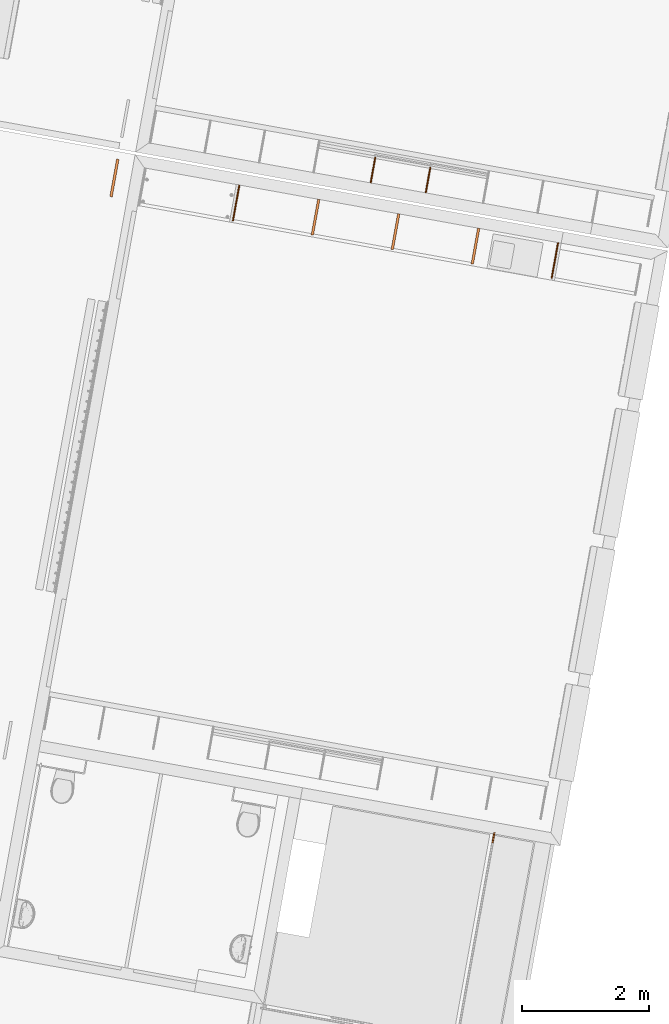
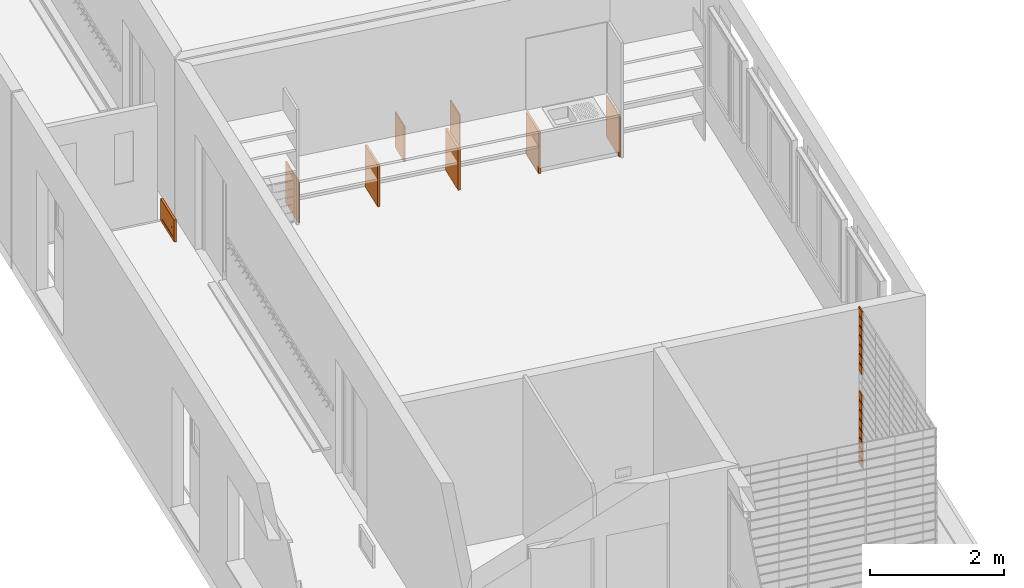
# One storey, part 34 of 52: 23 proxies, 1 element without a shape of its own.
"""IFC2X3 building model written with IfcOpenShell, lengths in metres."""

from ifc_helpers import new_model, entity, si_unit, converted_unit, derived_unit, money_unit, direction, frame, origin_with_axes, place, context, subcontext, project, spatial, polyline, outline, extrude, open_shell, faceted_brep, surface_model, source, transform, mapped, material, type_object, element, aggregate, save


model = new_model("IFC2X3")

# Units and contexts
model_context = context("Model", 3, precision=1e-05, world=origin_with_axes(), true_north=direction((0.0, 1.0)))
body_context = subcontext(model_context, "Body", "Model", "MODEL_VIEW")
ifc_project = project(units=[si_unit("LENGTHUNIT", "METRE"), si_unit("AREAUNIT", "SQUARE_METRE"), si_unit("VOLUMEUNIT", "CUBIC_METRE"), converted_unit("PLANEANGLEUNIT", "DEGREE", entity("IfcPlaneAngleMeasure", 0.0174532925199), si_unit("PLANEANGLEUNIT", "RADIAN"), dimensions=[0, 0, 0, 0, 0, 0, 0]), money_unit("CHF"), converted_unit("TIMEUNIT", "Year", entity("IfcTimeMeasure", 31556926.0), si_unit("TIMEUNIT", "SECOND"), dimensions=[0, 0, 1, 0, 0, 0, 0]), si_unit("MASSUNIT", "GRAM", prefix="KILO"), si_unit("THERMODYNAMICTEMPERATUREUNIT", "DEGREE_CELSIUS"), si_unit("LUMINOUSINTENSITYUNIT", "LUMEN"), si_unit("ENERGYUNIT", "JOULE", prefix="MEGA"), derived_unit("THERMALCONDUCTANCEUNIT", [(si_unit("POWERUNIT", "WATT"), 1), (si_unit("LENGTHUNIT", "METRE"), -1), (si_unit("THERMODYNAMICTEMPERATUREUNIT", "KELVIN"), -1)]), derived_unit("SPECIFICHEATCAPACITYUNIT", [(si_unit("ENERGYUNIT", "JOULE"), 1), (si_unit("MASSUNIT", "GRAM", prefix="KILO"), -1), (si_unit("THERMODYNAMICTEMPERATUREUNIT", "KELVIN"), -1)]), derived_unit("MASSDENSITYUNIT", [(si_unit("MASSUNIT", "GRAM", prefix="KILO"), 1), (si_unit("VOLUMEUNIT", "CUBIC_METRE"), -1)])], contexts=[model_context])

# Site, building, storey
site_placement = place(None, frame((0.0, 0.0, 0.0), z_axis=(0.0, 0.0, 1.0), x_axis=(-0.177771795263, -0.984071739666, 0.0)))
site = spatial("IfcSite", under=ifc_project, at=site_placement, Name="Site", CompositionType="ELEMENT")
building_placement = place(site_placement, origin_with_axes())
building = spatial("IfcBuilding", under=site, at=building_placement, Name="Bâtiment", CompositionType="ELEMENT")
storey_placement = place(building_placement, frame((0.0, 0.0, 3.2), z_axis=(0.0, 0.0, 1.0), x_axis=(1.0, 0.0, 0.0)))
storey = spatial("IfcBuildingStorey", under=building, at=storey_placement, Name="R+1", CompositionType="ELEMENT", Elevation=3.2)

# Proxies
ifc_material_1 = material(Name="_panneau mélaminé")
building_element_proxy_type_1 = type_object("IfcBuildingElementProxyType", Name="_panneau mélaminé 38", PredefinedType="NOTDEFINED")
proxy_1_placement = place(storey_placement, frame((129.254841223, -153.660193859, 0.0), z_axis=(0.0, 0.0, 1.0), x_axis=(-1.0, 0.0, 0.0)))
element("IfcBuildingElementProxy", 1, at=proxy_1_placement, inside=storey, type_object=building_element_proxy_type_1, material=ifc_material_1, Name="raidiseur-fd-classe double", context=body_context, shape_type="SweptSolid", body=[
    extrude(outline(polyline([(0.0, -0.019), (0.57, -0.019), (0.57, 0.019), (0.0, 0.019), (0.0, -0.019)])), origin_with_axes(), (0.0, 0.0, 1.0), 0.76),
])
proxy_2_placement = place(storey_placement, frame((129.254841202, -151.104151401, 0.0), z_axis=(0.0, 0.0, 1.0), x_axis=(-1.0, 0.0, 0.0)))
element("IfcBuildingElementProxy", 2, at=proxy_2_placement, inside=storey, type_object=building_element_proxy_type_1, material=ifc_material_1, Name="raidiseur-fd-classe double", context=body_context, shape_type="SweptSolid", body=[
    extrude(outline(polyline([(0.0, -0.019), (0.569999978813, -0.019), (0.569999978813, 0.019), (0.0, 0.019), (0.0, -0.019)])), origin_with_axes(), (0.0, 0.0, 1.0), 0.76),
])
proxy_3_placement = place(storey_placement, frame((129.254841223, -152.382193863, 0.0), z_axis=(0.0, 0.0, 1.0), x_axis=(-1.0, 0.0, 0.0)))
element("IfcBuildingElementProxy", 3, at=proxy_3_placement, inside=storey, type_object=building_element_proxy_type_1, material=ifc_material_1, Name="raidiseur-fd-classe double", context=body_context, shape_type="SweptSolid", body=[
    extrude(outline(polyline([(0.0, -0.019), (0.57, -0.019), (0.57, 0.019), (0.0, 0.019), (0.0, -0.019)])), origin_with_axes(), (0.0, 0.0, 1.0), 0.76),
])
building_element_proxy_type_2 = type_object("IfcBuildingElementProxyType", Name="_panneau mélaminé 19", PredefinedType="NOTDEFINED")
proxy_4_placement = place(storey_placement, frame((129.254841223, -149.845151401, 0.0), z_axis=(0.0, 0.0, 1.0), x_axis=(-1.0, 0.0, 0.0)))
element("IfcBuildingElementProxy", 4, at=proxy_4_placement, inside=storey, type_object=building_element_proxy_type_2, material=ifc_material_1, Name="raidiseur-fd-classe simple", context=body_context, shape_type="SweptSolid", body=[
    extrude(outline(polyline([(0.0, -0.019), (0.57, -0.019), (0.57, 0.0), (0.0, 0.0), (0.0, -0.019)])), origin_with_axes(), (0.0, 0.0, 1.0), 0.76),
])
proxy_5_placement = place(storey_placement, frame((129.254841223, -154.919236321, 0.0), z_axis=(0.0, 0.0, 1.0), x_axis=(-1.0, 0.0, 0.0)))
element("IfcBuildingElementProxy", 5, at=proxy_5_placement, inside=storey, type_object=building_element_proxy_type_2, material=ifc_material_1, Name="raidiseur-fd-classe simple", context=body_context, shape_type="SweptSolid", body=[
    extrude(outline(polyline([(0.0, 0.0), (0.570000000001, 0.0), (0.570000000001, 0.019), (0.0, 0.019), (0.0, 0.0)])), origin_with_axes(), (0.0, 0.0, 1.0), 0.76),
])
proxy_6_placement = place(storey_placement, frame((127.874841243, -152.023049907, 0.0), z_axis=(0.0, 0.0, 1.0), x_axis=(1.0, 0.0, 0.0)))
element("IfcBuildingElementProxy", 6, at=proxy_6_placement, inside=storey, type_object=building_element_proxy_type_2, material=ifc_material_1, Name="raidiseur-sous-tableau", context=body_context, shape_type="SweptSolid", body=[
    extrude(outline(polyline([(0.0, -0.0095), (0.409999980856, -0.0095), (0.409999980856, 0.0095), (0.0, 0.0095), (0.0, -0.0095)])), origin_with_axes(), (0.0, 0.0, 1.0), 0.65),
])
proxy_7_placement = place(storey_placement, frame((127.874841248, -152.903049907, 0.0), z_axis=(0.0, 0.0, 1.0), x_axis=(1.0, 0.0, 0.0)))
element("IfcBuildingElementProxy", 7, at=proxy_7_placement, inside=storey, type_object=building_element_proxy_type_2, material=ifc_material_1, Name="raidiseur-sous-tableau", context=body_context, shape_type="SweptSolid", body=[
    extrude(outline(polyline([(0.0, -0.0095), (0.409999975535, -0.0095), (0.409999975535, 0.0095), (0.0, 0.0095), (0.0, -0.0095)])), origin_with_axes(), (0.0, 0.0, 1.0), 0.65),
])
ifc_material_2 = material(Name="Matériau de construction IFC")
building_element_proxy_type_3 = type_object("IfcBuildingElementProxyType", Name="Trappe-visite_JM", PredefinedType="NOTDEFINED")
shared_shape = source(origin_with_axes(), body_context, "Body", "SurfaceModel", [
    surface_model("IfcShellBasedSurfaceModel", [(0.6, -0.035, 0.0), (0.0, -0.035, 0.0), (0.0, -0.035, 0.4), (0.6, -0.035, 0.4), (0.54, -0.035, 0.06), (0.54, -0.035, 0.34), (0.06, -0.035, 0.34), (0.06, -0.035, 0.06)], [open_shell([[[0, 1, 2, 3], [4, 5, 6, 7]]])]),
    faceted_brep([(0.6, 0.005, 0.0), (0.6, -0.035, 0.0), (0.0, -0.035, 0.0), (0.0, 0.005, 0.0), (0.6, 0.005, 0.4), (0.6, -0.035, 0.4), (0.0, -0.035, 0.4), (0.54, -0.035, 0.06), (0.06, -0.035, 0.06), (0.06, -0.035, 0.34), (0.54, -0.035, 0.34), (0.0, 0.005, 0.4), (0.54, 0.005, 0.06), (0.54, 0.005, 0.34), (0.06, 0.005, 0.34), (0.06, 0.005, 0.06)], [[[0, 1, 2, 3]], [[4, 5, 1, 0]], [[1, 5, 6, 2], [7, 8, 9, 10]], [[3, 2, 6, 11]], [[0, 3, 11, 4], [12, 13, 14, 15]], [[11, 6, 5, 4]], [[15, 8, 7, 12]], [[14, 9, 8, 15]], [[13, 10, 9, 14]], [[12, 7, 10, 13]]]),
    faceted_brep([(0.06, 0.0, 0.06), (0.06, -0.02, 0.06), (0.06, -0.02, 0.34), (0.06, 0.0, 0.34), (0.54, 0.0, 0.06), (0.54, -0.02, 0.06), (0.54, -0.02, 0.34), (0.1, -0.02, 0.19), (0.1, -0.02, 0.21), (0.12, -0.02, 0.21), (0.12, -0.02, 0.19), (0.54, 0.0, 0.34), (0.1, 0.0, 0.19), (0.12, 0.0, 0.19), (0.12, 0.0, 0.21), (0.1, 0.0, 0.21)], [[[0, 1, 2, 3]], [[4, 5, 1, 0]], [[1, 5, 6, 2], [7, 8, 9, 10]], [[3, 2, 6, 11]], [[0, 3, 11, 4], [12, 13, 14, 15]], [[11, 6, 5, 4]], [[15, 8, 7, 12]], [[14, 9, 8, 15]], [[13, 10, 9, 14]], [[12, 7, 10, 13]]]),
])
proxy_8_placement = place(storey_placement, frame((129.224841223, -156.897151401, 0.1), z_axis=(0.0, 0.0, 1.0), x_axis=(-1.0, 0.0, 0.0)))
element("IfcBuildingElementProxy", 8, at=proxy_8_placement, inside=storey, type_object=building_element_proxy_type_3, material=ifc_material_2, Name="trappe clapet-CF", context=body_context, shape_type="MappedRepresentation", body=[
    mapped(shared_shape, transform((0.0, 0.0, 0.0))),
])

# Curtain wall, proxies
curtain_wall_type = type_object("IfcCurtainWallType", Name="Type de mur-rideau", PredefinedType="NOTDEFINED")
curtain_wall_placement = place(storey_placement, frame((0.0, 0.0, -3.2), z_axis=(0.0, 0.0, 1.0), x_axis=(1.0, 0.0, 0.0)))
curtain_wall = element("IfcCurtainWall", 9, at=curtain_wall_placement, inside=storey, type_object=curtain_wall_type, Name="pare-vue CTA")
building_element_proxy_type_4 = type_object("IfcBuildingElementProxyType", Name="Panneau principal 160 x 170 x 20", PredefinedType="NOTDEFINED")
proxy_9_placement = place(curtain_wall_placement, frame((138.074841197, -149.172151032, 3.2975), z_axis=(0.0, 0.0, 1.0), x_axis=(-1.0, 0.0, 0.0)))
proxy_9 = element("IfcBuildingElementProxy", 10, at=proxy_9_placement, type_object=building_element_proxy_type_4, material=ifc_material_2, Name="Panel-Main-673", context=body_context, shape_type="SweptSolid", body=[
    extrude(outline(polyline([(-0.0800000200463, -0.0724999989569), (0.0800000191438, -0.0724999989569), (0.0800000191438, 0.0724999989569), (-0.0800000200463, 0.0724999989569), (-0.0800000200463, -0.0724999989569)])), frame((0.0, -0.00999999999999, 0.0), z_axis=(0.0, 1.0, 0.0), x_axis=(1.0, 0.0, 0.0)), (0.0, 0.0, 1.0), 0.02),
])
proxy_10_placement = place(curtain_wall_placement, frame((138.074841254, -149.172151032, 5.8475), z_axis=(0.0, 0.0, 1.0), x_axis=(-1.0, 0.0, 0.0)))
proxy_10 = element("IfcBuildingElementProxy", 11, at=proxy_10_placement, type_object=building_element_proxy_type_4, material=ifc_material_2, Name="Panel-Main-688", context=body_context, shape_type="SweptSolid", body=[
    extrude(outline(polyline([(-0.0799999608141, -0.0724999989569), (0.0799999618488, -0.0724999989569), (0.0799999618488, 0.0724999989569), (-0.0799999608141, 0.0724999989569), (-0.0799999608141, -0.0724999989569)])), frame((0.0, -0.00999999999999, 0.0), z_axis=(0.0, 1.0, 0.0), x_axis=(1.0, 0.0, 0.0)), (0.0, 0.0, 1.0), 0.02),
])
proxy_11_placement = place(curtain_wall_placement, frame((138.074841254, -149.172151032, 5.6775), z_axis=(0.0, 0.0, 1.0), x_axis=(-1.0, 0.0, 0.0)))
proxy_11 = element("IfcBuildingElementProxy", 12, at=proxy_11_placement, type_object=building_element_proxy_type_4, material=ifc_material_2, Name="Panel-Main-687", context=body_context, shape_type="SweptSolid", body=[
    extrude(outline(polyline([(-0.0799999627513, -0.0724999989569), (0.0800000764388, -0.0724999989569), (0.0800000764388, 0.0724999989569), (-0.0799999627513, 0.0724999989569), (-0.0799999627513, -0.0724999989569)])), frame((0.0, -0.00999999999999, 0.0), z_axis=(0.0, 1.0, 0.0), x_axis=(1.0, 0.0, 0.0)), (0.0, 0.0, 1.0), 0.02),
])
proxy_12_placement = place(curtain_wall_placement, frame((138.074841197, -149.172151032, 3.4675), z_axis=(0.0, 0.0, 1.0), x_axis=(-1.0, 0.0, 0.0)))
proxy_12 = element("IfcBuildingElementProxy", 13, at=proxy_12_placement, type_object=building_element_proxy_type_4, material=ifc_material_2, Name="Panel-Main-674", context=body_context, shape_type="SweptSolid", body=[
    extrude(outline(polyline([(-0.0800000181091, -0.0724999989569), (0.0799999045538, -0.0724999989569), (0.0799999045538, 0.0724999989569), (-0.0800000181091, 0.0724999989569), (-0.0800000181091, -0.0724999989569)])), frame((0.0, -0.00999999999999, 0.0), z_axis=(0.0, 1.0, 0.0), x_axis=(1.0, 0.0, 0.0)), (0.0, 0.0, 1.0), 0.02),
])
proxy_13_placement = place(curtain_wall_placement, frame((138.074841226, -149.172151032, 3.9775), z_axis=(0.0, 0.0, 1.0), x_axis=(-1.0, 0.0, 0.0)))
proxy_13 = element("IfcBuildingElementProxy", 14, at=proxy_13_placement, type_object=building_element_proxy_type_4, material=ifc_material_2, Name="Panel-Main-677", context=body_context, shape_type="SweptSolid", body=[
    extrude(outline(polyline([(-0.0799999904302, -0.0724999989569), (0.0799999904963, -0.0724999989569), (0.0799999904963, 0.0724999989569), (-0.0799999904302, 0.0724999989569), (-0.0799999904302, -0.0724999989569)])), frame((0.0, -0.00999999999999, 0.0), z_axis=(0.0, 1.0, 0.0), x_axis=(1.0, 0.0, 0.0)), (0.0, 0.0, 1.0), 0.02),
])
proxy_14_placement = place(curtain_wall_placement, frame((138.074841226, -149.172151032, 4.9975), z_axis=(0.0, 0.0, 1.0), x_axis=(-1.0, 0.0, 0.0)))
proxy_14 = element("IfcBuildingElementProxy", 15, at=proxy_14_placement, type_object=building_element_proxy_type_4, material=ifc_material_2, Name="Panel-Main-683", context=body_context, shape_type="SweptSolid", body=[
    extrude(outline(polyline([(-0.0799999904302, -0.0724999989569), (0.0799999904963, -0.0724999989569), (0.0799999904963, 0.0724999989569), (-0.0799999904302, 0.0724999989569), (-0.0799999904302, -0.0724999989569)])), frame((0.0, -0.00999999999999, 0.0), z_axis=(0.0, 1.0, 0.0), x_axis=(1.0, 0.0, 0.0)), (0.0, 0.0, 1.0), 0.02),
])
proxy_15_placement = place(curtain_wall_placement, frame((138.074841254, -149.172151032, 5.3375), z_axis=(0.0, 0.0, 1.0), x_axis=(-1.0, 0.0, 0.0)))
proxy_15 = element("IfcBuildingElementProxy", 16, at=proxy_15_placement, type_object=building_element_proxy_type_4, material=ifc_material_2, Name="Panel-Main-685", context=body_context, shape_type="SweptSolid", body=[
    extrude(outline(polyline([(-0.0799999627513, -0.0724999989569), (0.0800000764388, -0.0724999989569), (0.0800000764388, 0.0724999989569), (-0.0799999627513, 0.0724999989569), (-0.0799999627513, -0.0724999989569)])), frame((0.0, -0.00999999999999, 0.0), z_axis=(0.0, 1.0, 0.0), x_axis=(1.0, 0.0, 0.0)), (0.0, 0.0, 1.0), 0.02),
])
proxy_16_placement = place(curtain_wall_placement, frame((138.074841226, -149.172151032, 4.1475), z_axis=(0.0, 0.0, 1.0), x_axis=(-1.0, 0.0, 0.0)))
proxy_16 = element("IfcBuildingElementProxy", 17, at=proxy_16_placement, type_object=building_element_proxy_type_4, material=ifc_material_2, Name="Panel-Main-678", context=body_context, shape_type="SweptSolid", body=[
    extrude(outline(polyline([(-0.0799999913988, -0.0724999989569), (0.0800000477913, -0.0724999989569), (0.0800000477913, 0.0724999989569), (-0.0799999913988, 0.0724999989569), (-0.0799999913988, -0.0724999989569)])), frame((0.0, -0.00999999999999, 0.0), z_axis=(0.0, 1.0, 0.0), x_axis=(1.0, 0.0, 0.0)), (0.0, 0.0, 1.0), 0.02),
])
proxy_17_placement = place(curtain_wall_placement, frame((138.074841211, -149.172151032, 3.6375), z_axis=(0.0, 0.0, 1.0), x_axis=(-1.0, 0.0, 0.0)))
proxy_17 = element("IfcBuildingElementProxy", 18, at=proxy_17_placement, type_object=building_element_proxy_type_4, material=ifc_material_2, Name="Panel-Main-675", context=body_context, shape_type="SweptSolid", body=[
    extrude(outline(polyline([(-0.0800000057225, -0.0724999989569), (0.0800000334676, -0.0724999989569), (0.0800000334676, 0.0724999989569), (-0.0800000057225, 0.0724999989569), (-0.0800000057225, -0.0724999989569)])), frame((0.0, -0.00999999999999, 0.0), z_axis=(0.0, 1.0, 0.0), x_axis=(1.0, 0.0, 0.0)), (0.0, 0.0, 1.0), 0.02),
])
proxy_18_placement = place(curtain_wall_placement, frame((138.074841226, -149.172151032, 4.4875), z_axis=(0.0, 0.0, 1.0), x_axis=(-1.0, 0.0, 0.0)))
proxy_18 = element("IfcBuildingElementProxy", 19, at=proxy_18_placement, type_object=building_element_proxy_type_4, material=ifc_material_2, Name="Panel-Main-680", context=body_context, shape_type="SweptSolid", body=[
    extrude(outline(polyline([(-0.0799999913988, -0.0724999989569), (0.0800000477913, -0.0724999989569), (0.0800000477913, 0.0724999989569), (-0.0799999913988, 0.0724999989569), (-0.0799999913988, -0.0724999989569)])), frame((0.0, -0.00999999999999, 0.0), z_axis=(0.0, 1.0, 0.0), x_axis=(1.0, 0.0, 0.0)), (0.0, 0.0, 1.0), 0.02),
])
proxy_19_placement = place(curtain_wall_placement, frame((138.074841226, -149.172151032, 3.8075), z_axis=(0.0, 0.0, 1.0), x_axis=(-1.0, 0.0, 0.0)))
proxy_19 = element("IfcBuildingElementProxy", 20, at=proxy_19_placement, type_object=building_element_proxy_type_4, material=ifc_material_2, Name="Panel-Main-676", context=body_context, shape_type="SweptSolid", body=[
    extrude(outline(polyline([(-0.0799999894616, -0.0724999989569), (0.0799999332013, -0.0724999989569), (0.0799999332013, 0.0724999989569), (-0.0799999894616, 0.0724999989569), (-0.0799999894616, -0.0724999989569)])), frame((0.0, -0.00999999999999, 0.0), z_axis=(0.0, 1.0, 0.0), x_axis=(1.0, 0.0, 0.0)), (0.0, 0.0, 1.0), 0.02),
])
proxy_20_placement = place(curtain_wall_placement, frame((138.074841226, -149.172151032, 4.3175), z_axis=(0.0, 0.0, 1.0), x_axis=(-1.0, 0.0, 0.0)))
proxy_20 = element("IfcBuildingElementProxy", 21, at=proxy_20_placement, type_object=building_element_proxy_type_4, material=ifc_material_2, Name="Panel-Main-679", context=body_context, shape_type="SweptSolid", body=[
    extrude(outline(polyline([(-0.0799999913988, -0.0724999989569), (0.0800000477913, -0.0724999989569), (0.0800000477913, 0.0724999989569), (-0.0799999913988, 0.0724999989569), (-0.0799999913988, -0.0724999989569)])), frame((0.0, -0.00999999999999, 0.0), z_axis=(0.0, 1.0, 0.0), x_axis=(1.0, 0.0, 0.0)), (0.0, 0.0, 1.0), 0.02),
])
proxy_21_placement = place(curtain_wall_placement, frame((138.074841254, -149.172151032, 5.5075), z_axis=(0.0, 0.0, 1.0), x_axis=(-1.0, 0.0, 0.0)))
proxy_21 = element("IfcBuildingElementProxy", 22, at=proxy_21_placement, type_object=building_element_proxy_type_4, material=ifc_material_2, Name="Panel-Main-686", context=body_context, shape_type="SweptSolid", body=[
    extrude(outline(polyline([(-0.0799999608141, -0.0724999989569), (0.0799999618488, -0.0724999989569), (0.0799999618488, 0.0724999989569), (-0.0799999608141, 0.0724999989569), (-0.0799999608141, -0.0724999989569)])), frame((0.0, -0.00999999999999, 0.0), z_axis=(0.0, 1.0, 0.0), x_axis=(1.0, 0.0, 0.0)), (0.0, 0.0, 1.0), 0.02),
])
building_element_proxy_type_5 = type_object("IfcBuildingElementProxyType", Name="160 x 170 x 20", PredefinedType="NOTDEFINED")
proxy_22_placement = place(curtain_wall_placement, frame((138.07484124, -149.172151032, 5.1675), z_axis=(0.0, 0.0, 1.0), x_axis=(-1.0, 0.0, 0.0)))
proxy_22 = element("IfcBuildingElementProxy", 23, at=proxy_22_placement, type_object=building_element_proxy_type_5, material=ifc_material_2, Name="Panel-Main-190", context=body_context, shape_type="SweptSolid", body=[
    extrude(outline(polyline([(-0.0799999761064, -0.0724999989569), (0.0799999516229, -0.0724999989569), (0.0799999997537, 0.0724999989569), (-0.0799999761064, 0.0724999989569), (-0.0799999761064, -0.0724999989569)])), frame((0.0, -0.00999999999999, 0.0), z_axis=(0.0, 1.0, 0.0), x_axis=(1.0, 0.0, 0.0)), (0.0, 0.0, 1.0), 0.02),
])
building_element_proxy_type_6 = type_object("IfcBuildingElementProxyType", Name="Panneau principal 160 x 147 x 20", PredefinedType="NOTDEFINED")
proxy_23_placement = place(curtain_wall_placement, frame((138.074841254, -149.172151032, 6.00624998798), z_axis=(0.0, 0.0, 1.0), x_axis=(-1.0, 0.0, 0.0)))
proxy_23 = element("IfcBuildingElementProxy", 24, at=proxy_23_placement, type_object=building_element_proxy_type_6, material=ifc_material_2, Name="Panel-Main-253", context=body_context, shape_type="SweptSolid", body=[
    extrude(outline(polyline([(-0.0799999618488, -0.073749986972), (0.0799999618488, -0.073749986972), (0.0799999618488, 0.0612499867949), (-0.0799999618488, 0.0612499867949), (-0.0799999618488, -0.073749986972)])), frame((0.0, -0.00999999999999, 0.0), z_axis=(0.0, 1.0, 0.0), x_axis=(1.0, 0.0, 0.0)), (0.0, 0.0, 1.0), 0.02),
])
aggregate(curtain_wall, [proxy_9, proxy_10, proxy_11, proxy_12, proxy_13, proxy_14, proxy_15, proxy_16, proxy_22, proxy_17, proxy_18, proxy_19, proxy_23, proxy_20, proxy_21])

save(model, "model.ifc")
